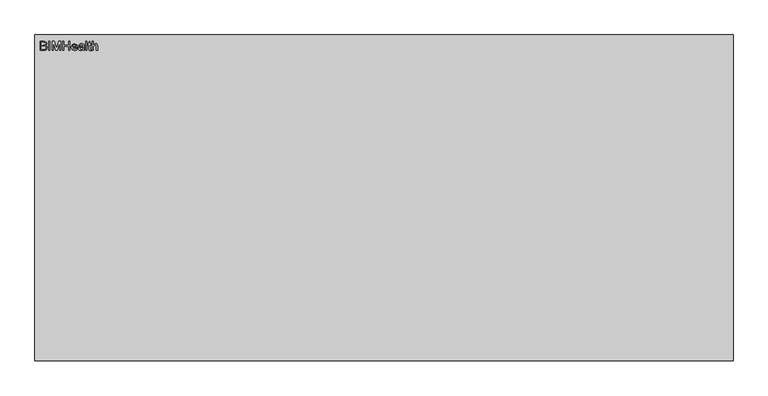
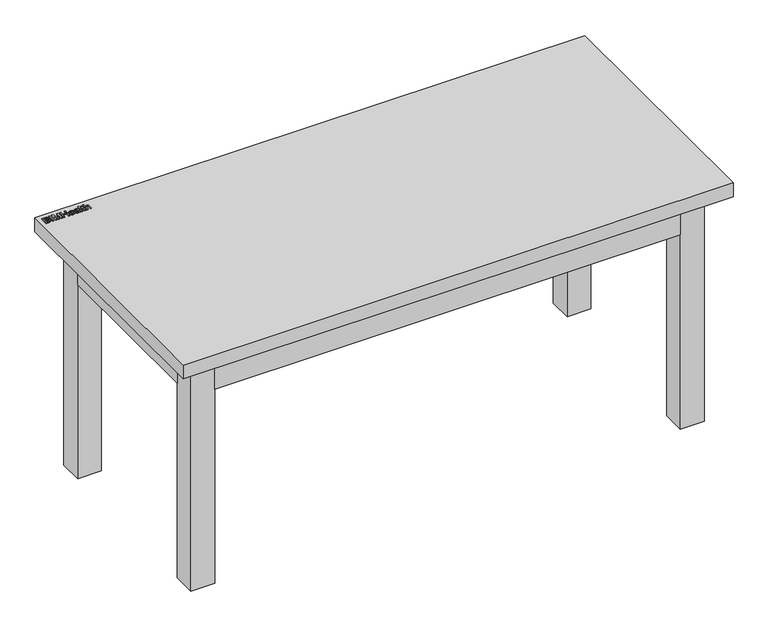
"""IFC4 building model written with IfcOpenShell, lengths in millimetres: furniture geometry, BIMHealth-Desk_Consultant-LOD2A-v1 : BIMHealth-Desk_Consultant-LOD2A-v1."""

from ifc_helpers import new_model, si_unit, frame, origin, origin_with_axes, place, context, project, spatial, polyline, outline, extrude, source, transform, mapped, element, save


def furniture_9261fd45(model_context):
    return source(origin(), model_context, "Body", "SweptSolid", [
        extrude(outline(polyline([(1385.0, -617.5), (1385.0, -650.0), (115.0, -650.0), (115.0, -617.5), (1385.0, -617.5)])), frame((0.0, 0.0, 560.0), z_axis=(0.0, 0.0, 1.0), x_axis=(1.0, 0.0, 0.0)), (0.0, 0.0, 1.0), 100.0),
        extrude(outline(polyline([(1385.0, -82.5), (115.0, -82.5), (115.0, -50.0), (1385.0, -50.0), (1385.0, -82.5)])), frame((0.0, 0.0, 560.0), z_axis=(0.0, 0.0, 1.0), x_axis=(1.0, 0.0, 0.0)), (0.0, 0.0, 1.0), 100.0),
        extrude(outline(polyline([(50.0, -585.0), (50.0, -115.0), (82.5, -115.0), (82.5, -585.0), (50.0, -585.0)])), frame((0.0, 0.0, 560.0), z_axis=(0.0, 0.0, 1.0), x_axis=(1.0, 0.0, 0.0)), (0.0, 0.0, 1.0), 100.0),
        extrude(outline(polyline([(1450.0, -585.0), (1417.5, -585.0), (1417.5, -115.0), (1450.0, -115.0), (1450.0, -585.0)])), frame((0.0, 0.0, 560.0), z_axis=(0.0, 0.0, 1.0), x_axis=(1.0, 0.0, 0.0)), (0.0, 0.0, 1.0), 100.0),
        extrude(outline(polyline([(11.3672628, -33.4729978), (11.3672628, -13.7806901), (18.8816859, -13.7806901), (22.5619743, -14.360017), (24.7350513, -16.141267), (25.521109, -18.6604978), (24.8600513, -20.9609786), (22.8624551, -22.703767), (25.2879359, -24.5403055), (26.1364936, -27.6028055), (25.5571666, -30.2494401), (24.1220705, -32.1340555), (21.9802436, -33.1340555), (18.8239936, -33.4729978), (11.3672628, -33.4729978)]), holes=[polyline([(13.8288013, -21.7806901), (18.3239936, -21.7806901), (20.9489936, -21.5691517), (22.5283205, -20.658094), (23.0595705, -19.0547286), (22.5643782, -17.4489594), (21.146109, -16.4994401), (17.9826474, -16.2422286), (13.8288013, -16.2422286), (13.8288013, -21.7806901)]), polyline([(13.8288013, -31.0114594), (18.8768782, -31.0114594), (20.7038013, -30.9153055), (22.2494743, -30.3792478), (23.6749551, -27.626844), (23.2038013, -25.7133824), (21.677359, -24.5715555), (18.6364936, -24.2422286), (13.8288013, -24.2422286), (13.8288013, -31.0114594)])]), frame((0.0, 0.0, 700.0), z_axis=(0.0, 0.0, 1.0), x_axis=(1.0, 0.0, 0.0)), (0.0, 0.0, 1.0), 2.5),
        extrude(outline(polyline([(29.8288013, -33.4729978), (29.8288013, -13.7806901), (32.2903397, -13.7806901), (32.2903397, -33.4729978), (29.8288013, -33.4729978)])), frame((0.0, 0.0, 700.0), z_axis=(0.0, 0.0, 1.0), x_axis=(1.0, 0.0, 0.0)), (0.0, 0.0, 1.0), 2.5),
        extrude(outline(polyline([(37.2134166, -33.4729978), (37.2134166, -13.7806901), (41.4345705, -13.7806901), (45.473032, -27.6604978), (46.2903397, -30.5595363), (47.1701474, -27.4201132), (51.1316859, -13.7806901), (55.3672628, -13.7806901), (55.3672628, -33.4729978), (52.9057243, -33.4729978), (52.9057243, -16.2422286), (47.958609, -33.4729978), (44.6268782, -33.4729978), (39.6749551, -16.2422286), (39.6749551, -33.4729978), (37.2134166, -33.4729978)])), frame((0.0, 0.0, 700.0), z_axis=(0.0, 0.0, 1.0), x_axis=(1.0, 0.0, 0.0)), (0.0, 0.0, 1.0), 2.5),
        extrude(outline(polyline([(59.6749551, -33.4729978), (59.6749551, -13.7806901), (62.1364936, -13.7806901), (62.1364936, -21.7806901), (72.598032, -21.7806901), (72.598032, -13.7806901), (75.0595705, -13.7806901), (75.0595705, -33.4729978), (72.598032, -33.4729978), (72.598032, -24.2422286), (62.1364936, -24.2422286), (62.1364936, -33.4729978), (59.6749551, -33.4729978)])), frame((0.0, 0.0, 700.0), z_axis=(0.0, 0.0, 1.0), x_axis=(1.0, 0.0, 0.0)), (0.0, 0.0, 1.0), 2.5),
        extrude(outline(polyline([(89.1845705, -29.1653055), (91.598032, -29.4729978), (89.3408205, -32.6508824), (85.1364936, -33.7806901), (80.0259166, -31.8311709), (78.1364936, -26.3624209), (80.0451474, -20.7133824), (84.9970705, -18.703767), (89.8071666, -20.7085747), (91.6749551, -26.3479978), (80.598032, -27.0114594), (82.0138974, -30.2085747), (85.1845705, -31.3191517), (87.598032, -30.8047286), (89.1845705, -29.1653055)]), holes=[polyline([(80.598032, -24.5499209), (89.2134166, -24.5499209), (88.2278397, -22.3191517), (84.9874551, -21.1653055), (81.9562051, -22.0859786), (80.598032, -24.5499209)])]), frame((0.0, 0.0, 700.0), z_axis=(0.0, 0.0, 1.0), x_axis=(1.0, 0.0, 0.0)), (0.0, 0.0, 1.0), 2.5),
        extrude(outline(polyline([(103.3672628, -31.626844), (100.9802436, -33.2951132), (98.3432243, -33.7806901), (94.7687051, -32.6124209), (93.521109, -29.626844), (93.9922628, -27.6797286), (95.2302436, -26.266267), (96.9538013, -25.4585747), (99.083609, -25.0883824), (103.3528397, -24.2422286), (102.6893782, -21.876844), (99.9682243, -21.1653055), (97.4778397, -21.6388632), (96.2903397, -23.3191517), (93.8288013, -23.0114594), (94.8937051, -20.6076132), (97.0379359, -19.1989594), (100.285532, -18.703767), (103.2687051, -19.141267), (104.9538013, -20.2398247), (105.708609, -21.9104978), (105.8288013, -24.064344), (105.8288013, -27.126844), (105.9538013, -31.4032863), (106.4441859, -33.4729978), (103.9826474, -33.4729978), (103.3672628, -31.626844)]), holes=[polyline([(103.3600513, -27.0523247), (99.396109, -27.4585747), (97.2783205, -27.8576132), (98.8672628, -31.3191517), (101.3576474, -30.7302094), (102.9634166, -29.3047286), (103.3600513, -27.0523247)])]), frame((0.0, 0.0, 700.0), z_axis=(0.0, 0.0, 1.0), x_axis=(1.0, 0.0, 0.0)), (0.0, 0.0, 1.0), 2.5),
        extrude(outline(polyline([(109.2134166, -33.4729978), (109.2134166, -13.7806901), (111.6749551, -13.7806901), (111.6749551, -33.4729978), (109.2134166, -33.4729978)])), frame((0.0, 0.0, 700.0), z_axis=(0.0, 0.0, 1.0), x_axis=(1.0, 0.0, 0.0)), (0.0, 0.0, 1.0), 2.5),
        extrude(outline(polyline([(119.3672628, -30.4273247), (120.9057243, -33.5451132), (119.0643782, -33.7806901), (117.0018782, -33.3720363), (115.6749551, -29.5066517), (115.6749551, -21.4729978), (113.8288013, -21.4729978), (113.8288013, -19.0114594), (115.6749551, -19.0114594), (115.6749551, -15.4970363), (118.1364936, -14.0499209), (118.1364936, -19.0114594), (120.598032, -19.0114594), (120.598032, -21.4729978), (118.1364936, -21.4729978), (119.3672628, -30.4273247)])), frame((0.0, 0.0, 700.0), z_axis=(0.0, 0.0, 1.0), x_axis=(1.0, 0.0, 0.0)), (0.0, 0.0, 1.0), 2.5),
        extrude(outline(polyline([(123.0595705, -33.4729978), (123.0595705, -13.7806901), (125.521109, -13.7806901), (125.521109, -21.0210747), (129.8047628, -18.703767), (132.5691859, -19.3359786), (134.2470705, -21.0835747), (134.7518782, -24.3191517), (134.7518782, -33.4729978), (132.2903397, -33.4729978), (132.2903397, -24.5739594), (131.5066859, -21.9778055), (129.285532, -21.1653055), (127.2687051, -21.7133824), (125.9225513, -23.1989594), (125.521109, -25.7903055), (125.521109, -33.4729978), (123.0595705, -33.4729978)])), frame((0.0, 0.0, 700.0), z_axis=(0.0, 0.0, 1.0), x_axis=(1.0, 0.0, 0.0)), (0.0, 0.0, 1.0), 2.5),
        extrude(outline(polyline([(1450.0, -585.0), (1450.0, -650.0), (1385.0, -650.0), (1385.0, -585.0), (1450.0, -585.0)])), origin_with_axes(), (0.0, 0.0, 1.0), 660.0),
        extrude(outline(polyline([(1450.0, -115.0), (1385.0, -115.0), (1385.0, -50.0), (1450.0, -50.0), (1450.0, -115.0)])), origin_with_axes(), (0.0, 0.0, 1.0), 660.0),
        extrude(outline(polyline([(50.0, -585.0), (115.0, -585.0), (115.0, -650.0), (50.0, -650.0), (50.0, -585.0)])), origin_with_axes(), (0.0, 0.0, 1.0), 660.0),
        extrude(outline(polyline([(50.0, -115.0), (50.0, -50.0), (115.0, -50.0), (115.0, -115.0), (50.0, -115.0)])), origin_with_axes(), (0.0, 0.0, 1.0), 660.0),
        extrude(outline(polyline([(1500.0, 0.0), (1500.0, -700.0), (0.0, -700.0), (0.0, 0.0), (1500.0, 0.0)])), frame((0.0, 0.0, 660.0), z_axis=(0.0, 0.0, 1.0), x_axis=(1.0, 0.0, 0.0)), (0.0, 0.0, 1.0), 40.0),
    ])


if __name__ == "__main__":
    model = new_model("IFC4")
    model_context = context("Model", 3, world=origin())
    ifc_project = project(units=[si_unit("LENGTHUNIT", "METRE", prefix="MILLI")], contexts=[model_context])
    site = spatial("IfcSite", under=ifc_project)
    building = spatial("IfcBuilding", under=site)
    placement = place(None, origin())
    furniture_shape = furniture_9261fd45(model_context)
    element("IfcFurniture", 1, ObjectType="BIMHealth-Desk_Consultant-LOD2A-v1 : BIMHealth-Desk_Consultant-LOD2A-v1", at=placement, inside=building, context=model_context, shape_type="MappedRepresentation", body=[
        mapped(furniture_shape, transform((0.0, 0.0, 0.0), x_axis=(1.0, 0.0, 0.0), y_axis=(0.0, 1.0, 0.0), z_axis=(0.0, 0.0, 1.0))),
    ])
    save(model, "model.ifc")
